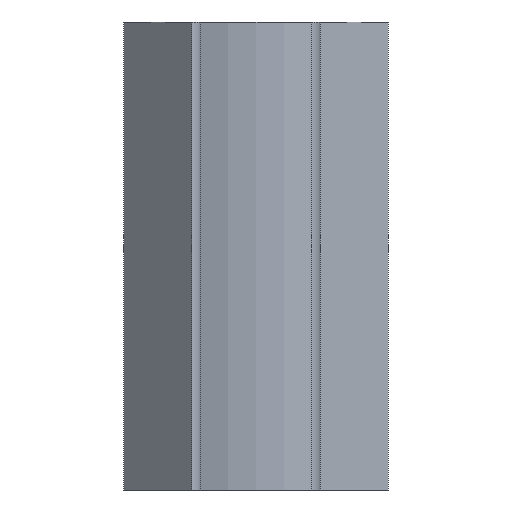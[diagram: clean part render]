
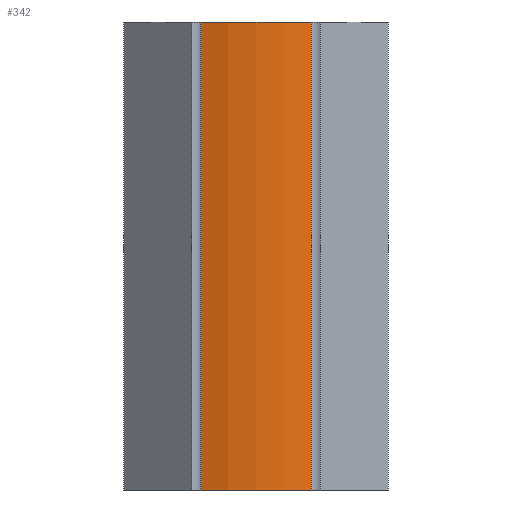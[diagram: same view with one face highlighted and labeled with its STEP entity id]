
A CAD part, front view. The second image highlights one B-rep face of the part: STEP entity #342.
In plain terms, the highlighted cylindrical face has radius 35 mm (diameter 70 mm), a partial arc.
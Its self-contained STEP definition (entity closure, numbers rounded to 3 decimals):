
#1 = EDGE_CURVE ( 'NONE', #71, #421, #381, .T. ) ;
#8 = CARTESIAN_POINT ( 'NONE',  ( -11.843, -13.568, 50. ) ) ;
#22 = DIRECTION ( 'NONE',  ( -1., 0., 0. ) ) ;
#25 = DIRECTION ( 'NONE',  ( 1., 0., 0. ) ) ;
#26 = CARTESIAN_POINT ( 'NONE',  ( 11.843, -13.568, -50. ) ) ;
#28 = CARTESIAN_POINT ( 'NONE',  ( 11.843, -13.568, 50. ) ) ;
#53 = ORIENTED_EDGE ( 'NONE', *, *, #407, .F. ) ;
#57 = DIRECTION ( 'NONE',  ( 0., 0., -1. ) ) ;
#62 = EDGE_CURVE ( 'NONE', #71, #447, #255, .T. ) ;
#71 = VERTEX_POINT ( 'NONE', #361 ) ;
#73 = DIRECTION ( 'NONE',  ( 0., 0., 1. ) ) ;
#106 = EDGE_LOOP ( 'NONE', ( #110, #53, #234, #123 ) ) ;
#107 = CYLINDRICAL_SURFACE ( 'NONE', #330, 35. ) ;
#110 = ORIENTED_EDGE ( 'NONE', *, *, #418, .T. ) ;
#123 = ORIENTED_EDGE ( 'NONE', *, *, #62, .T. ) ;
#128 = CARTESIAN_POINT ( 'NONE',  ( -11.843, -13.568, -50. ) ) ;
#132 = AXIS2_PLACEMENT_3D ( 'NONE', #244, #73, #391 ) ;
#174 = VECTOR ( 'NONE', #198, 1000. ) ;
#198 = DIRECTION ( 'NONE',  ( 0., 0., -1. ) ) ;
#230 = DIRECTION ( 'NONE',  ( 0., 0., 1. ) ) ;
#234 = ORIENTED_EDGE ( 'NONE', *, *, #1, .F. ) ;
#244 = CARTESIAN_POINT ( 'NONE',  ( 0., 19.367, 50. ) ) ;
#247 = DIRECTION ( 'NONE',  ( 0., 0., -1. ) ) ;
#255 = LINE ( 'NONE', #8, #307 ) ;
#261 = CARTESIAN_POINT ( 'NONE',  ( 0., 19.367, 50. ) ) ;
#307 = VECTOR ( 'NONE', #247, 1000. ) ;
#330 = AXIS2_PLACEMENT_3D ( 'NONE', #261, #57, #22 ) ;
#342 = ADVANCED_FACE ( 'NONE', ( #390 ), #107, .T. ) ;
#355 = CIRCLE ( 'NONE', #357, 35. ) ;
#357 = AXIS2_PLACEMENT_3D ( 'NONE', #439, #230, #25 ) ;
#361 = CARTESIAN_POINT ( 'NONE',  ( -11.843, -13.568, 50. ) ) ;
#362 = VERTEX_POINT ( 'NONE', #26 ) ;
#368 = LINE ( 'NONE', #28, #174 ) ;
#381 = CIRCLE ( 'NONE', #132, 35. ) ;
#390 = FACE_OUTER_BOUND ( 'NONE', #106, .T. ) ;
#391 = DIRECTION ( 'NONE',  ( 1., 0., 0. ) ) ;
#407 = EDGE_CURVE ( 'NONE', #421, #362, #368, .T. ) ;
#408 = CARTESIAN_POINT ( 'NONE',  ( 11.843, -13.568, 50. ) ) ;
#418 = EDGE_CURVE ( 'NONE', #447, #362, #355, .T. ) ;
#421 = VERTEX_POINT ( 'NONE', #408 ) ;
#439 = CARTESIAN_POINT ( 'NONE',  ( 0., 19.367, -50. ) ) ;
#447 = VERTEX_POINT ( 'NONE', #128 ) ;
